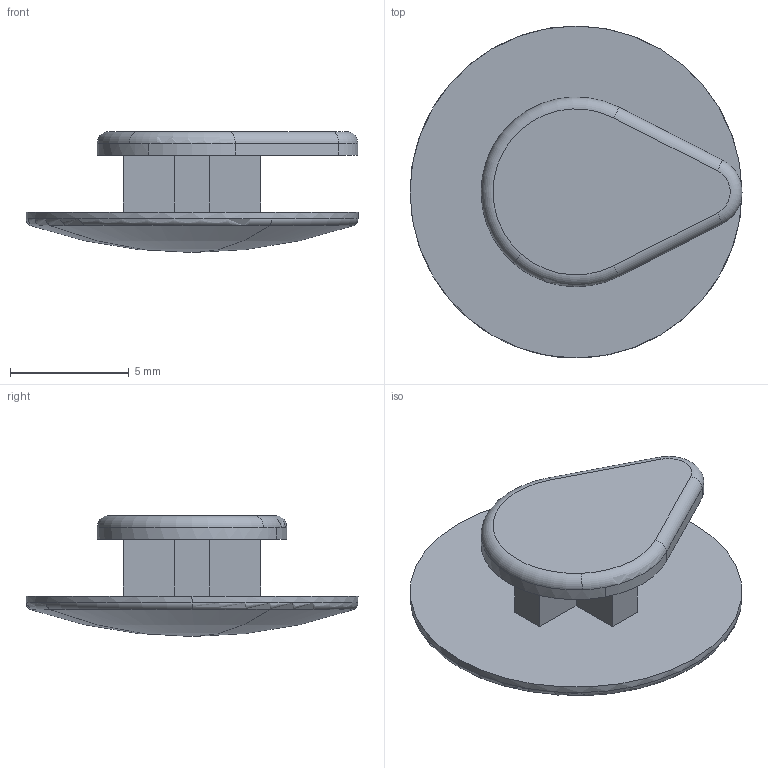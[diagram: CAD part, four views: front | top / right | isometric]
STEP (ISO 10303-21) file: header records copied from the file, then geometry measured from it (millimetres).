
FILE_DESCRIPTION(('CATIA V5 STEP Exchange'),'2;1');
FILE_NAME('C:\Users\nobody\Desktop\SHT0019025_20251030.stp','2025-10-30T05:09:27+00:00',('none'),('none'),'CATIA Version 5 Release 20 GA (IN-10)','CATIA V5 STEP AP203 Edition 2','none');
FILE_SCHEMA(('AP203_CONFIGURATION_CONTROLLED_3D_DESIGN_OF_MECHANICAL_PARTS_AND_ASSEMBLIES_MIM_LF { 1 0 10303 403 2 1 2}'));
Length unit declared in the file: millimetre
Products named in the file (1): SHT0019025
Bounding box: 14 x 14 x 5.1 mm (x, y, z)
Volume: 266.8 mm3; surface area: 504.5 mm2
Topology: 1 solids, 1 shells, 35 faces, 88 edges, 53 vertices
Faces by surface type: plane 17, cylinder 7, torus 7, sphere 4
Entity records: 998 total; most frequent: CARTESIAN_POINT 177, ORIENTED_EDGE 168, DIRECTION 145, EDGE_CURVE 84, AXIS2_PLACEMENT_3D 66, VERTEX_POINT 53, VECTOR 49, LINE 49
